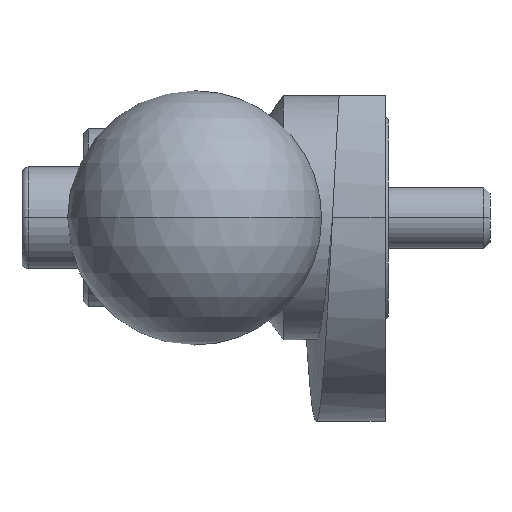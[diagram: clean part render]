
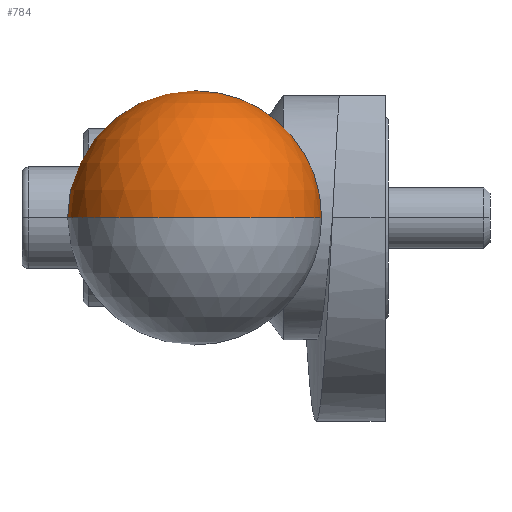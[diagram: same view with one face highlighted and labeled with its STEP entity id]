
A CAD part, left-side view. The second image highlights one B-rep face of the part: STEP entity #784.
In plain terms, the highlighted spherical face has radius 12.5 mm.
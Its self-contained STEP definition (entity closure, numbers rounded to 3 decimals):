
#126 = AXIS2_PLACEMENT_3D ( 'NONE', #1928, #1126, #1764 ) ;
#195 = CARTESIAN_POINT ( 'NONE',  ( -77.5, 16.25, 0. ) ) ;
#244 = ORIENTED_EDGE ( 'NONE', *, *, #1017, .T. ) ;
#460 = CARTESIAN_POINT ( 'NONE',  ( -77.5, 8.75, 0. ) ) ;
#522 = CIRCLE ( 'NONE', #1736, 12.5 ) ;
#554 = VERTEX_POINT ( 'NONE', #195 ) ;
#573 = CARTESIAN_POINT ( 'NONE',  ( -87.5, 8.75, 0. ) ) ;
#620 = CIRCLE ( 'NONE', #1501, 12.5 ) ;
#778 = DIRECTION ( 'NONE',  ( 1., 0., 0. ) ) ;
#784 = ADVANCED_FACE ( 'NONE', ( #1593 ), #2087, .T. ) ;
#892 = VERTEX_POINT ( 'NONE', #1362 ) ;
#897 = AXIS2_PLACEMENT_3D ( 'NONE', #460, #778, #967 ) ;
#967 = DIRECTION ( 'NONE',  ( 0., 1., 0. ) ) ;
#1017 = EDGE_CURVE ( 'NONE', #892, #1187, #522, .T. ) ;
#1063 = ORIENTED_EDGE ( 'NONE', *, *, #1169, .F. ) ;
#1106 = DIRECTION ( 'NONE',  ( 0., 0., 1. ) ) ;
#1126 = DIRECTION ( 'NONE',  ( 0., 0., -1. ) ) ;
#1159 = EDGE_CURVE ( 'NONE', #892, #554, #620, .T. ) ;
#1169 = EDGE_CURVE ( 'NONE', #554, #1187, #1843, .T. ) ;
#1187 = VERTEX_POINT ( 'NONE', #1293 ) ;
#1293 = CARTESIAN_POINT ( 'NONE',  ( -77.5, 1.25, 0. ) ) ;
#1362 = CARTESIAN_POINT ( 'NONE',  ( -100., 8.75, 0. ) ) ;
#1478 = ORIENTED_EDGE ( 'NONE', *, *, #1159, .F. ) ;
#1501 = AXIS2_PLACEMENT_3D ( 'NONE', #1631, #1594, #1919 ) ;
#1578 = EDGE_LOOP ( 'NONE', ( #1478, #244, #1063 ) ) ;
#1593 = FACE_OUTER_BOUND ( 'NONE', #1578, .T. ) ;
#1594 = DIRECTION ( 'NONE',  ( 0., 0., -1. ) ) ;
#1631 = CARTESIAN_POINT ( 'NONE',  ( -87.5, 8.75, 0. ) ) ;
#1736 = AXIS2_PLACEMENT_3D ( 'NONE', #573, #1106, #1743 ) ;
#1743 = DIRECTION ( 'NONE',  ( 1., 0., 0. ) ) ;
#1764 = DIRECTION ( 'NONE',  ( 0., -1., 0. ) ) ;
#1843 = CIRCLE ( 'NONE', #897, 7.5 ) ;
#1919 = DIRECTION ( 'NONE',  ( 0., 1., 0. ) ) ;
#1928 = CARTESIAN_POINT ( 'NONE',  ( -87.5, 8.75, 0. ) ) ;
#2087 = SPHERICAL_SURFACE ( 'NONE', #126, 12.5 ) ;
